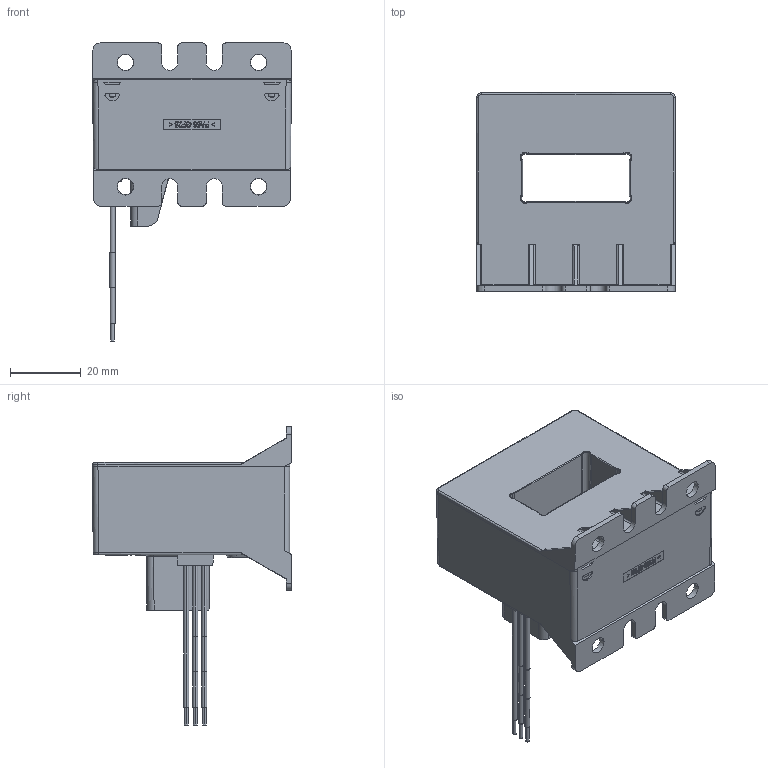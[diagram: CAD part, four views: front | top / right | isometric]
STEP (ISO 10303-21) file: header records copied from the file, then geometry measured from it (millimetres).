
FILE_DESCRIPTION(('Creo Elements/Direct Modeling STEP Export'),'2;1');
FILE_NAME('90.C8.46.010.0_20190202.stp','2019-02-02T 9:10:48',(''),(''),'Creo Elements/Direct Modeling STEP processor for AP214 (Solid Model)','Creo Elements/Direct Modeling 20.1 10-Mar-2018 (C) Parametric Technology GmbH','');
FILE_SCHEMA(('AUTOMOTIVE_DESIGN { 1 0 10303 214 1 1 1 1 }'));
Length unit declared in the file: millimetre
Products named in the file (2): LAC-300-S-SP10
Assembly tree (1 placements, depth 2):
  LAC-300-S-SP10
    LAC-300-S-SP10
Bounding box: 56 x 56 x 84 mm (x, y, z)
Volume: 70696.4 mm3; surface area: 24321.2 mm2
Topology: 1 solids, 8 shells, 1719 faces, 4670 edges, 3062 vertices
Faces by surface type: plane 1375, cylinder 240, cone 42, bspline 25, extrusion 18, sphere 14, torus 5
Entity records: 54938 total; most frequent: CARTESIAN_POINT 11608, ORIENTED_EDGE 9312, DIRECTION 8155, EDGE_CURVE 4656, VECTOR 3979, LINE 3965, VERTEX_POINT 3062, AXIS2_PLACEMENT_3D 2088
